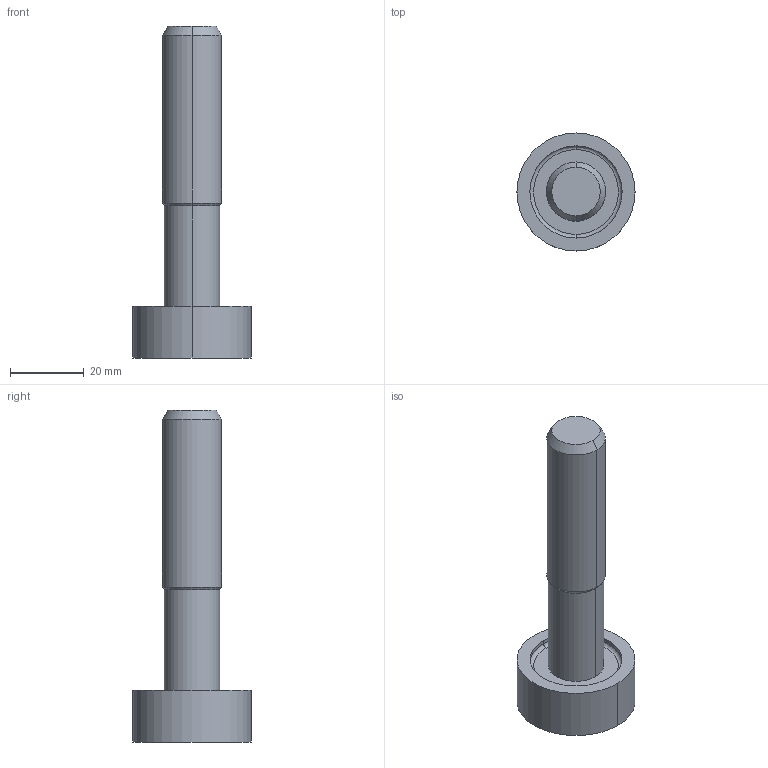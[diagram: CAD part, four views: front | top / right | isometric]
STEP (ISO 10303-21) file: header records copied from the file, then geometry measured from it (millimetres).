
FILE_DESCRIPTION((''),'2;1');
FILE_NAME('DIN4003_82_HEURO','2016-04-14T',('moesset'),(''),'PRO/ENGINEER BY PARAMETRIC TECHNOLOGY CORPORATION, 2015280','PRO/ENGINEER BY PARAMETRIC TECHNOLOGY CORPORATION, 2015280','');
FILE_SCHEMA(('AUTOMOTIVE_DESIGN { 1 0 10303 214 1 1 1 1 }'));
Length unit declared in the file: millimetre
Products named in the file (1): DIN4003_82_HEURO
Bounding box: 32 x 32 x 90 mm (x, y, z)
Volume: 24205.3 mm3; surface area: 7061.5 mm2
Topology: 1 solids, 1 shells, 25 faces, 51 edges, 32 vertices
Faces by surface type: bspline 25
Entity records: 1713 total; most frequent: CARTESIAN_POINT 876, DIRECTION 115, ORIENTED_EDGE 96, EDGE_CURVE 48, AXIS2_PLACEMENT_3D 46, PRESENTATION_STYLE_ASSIGNMENT 37, STYLED_ITEM 37, CIRCLE 34
